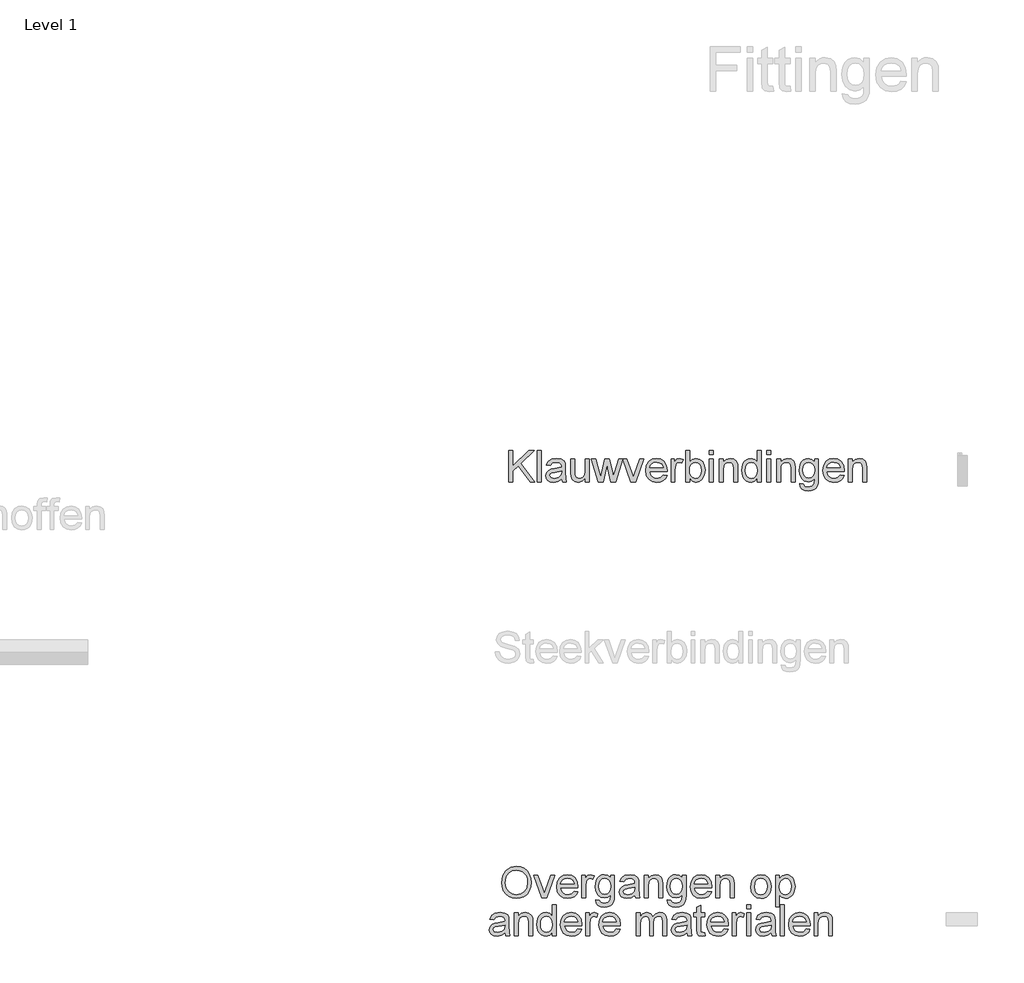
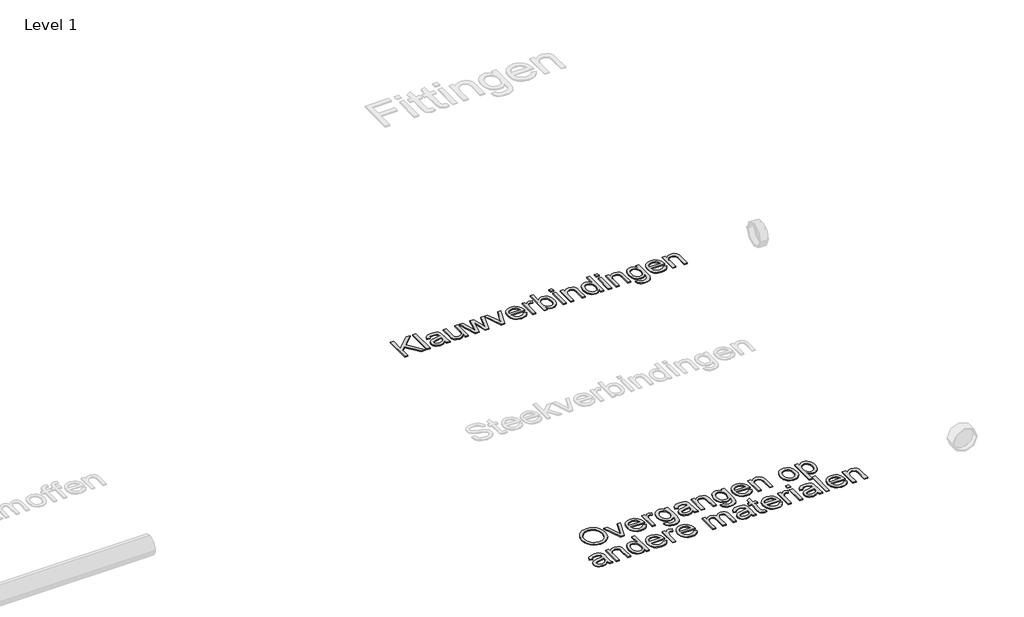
# One storey, part 4 of 6: 2 proxies.
"""IFC4 building model written with IfcOpenShell, lengths in millimetres."""

from ifc_helpers import new_model, si_unit, origin, origin_with_axes, place, context, project, spatial, polyline, outline, extrude, element, save

model = new_model("IFC4")

# Units and contexts
model_context = context("Model", 3, world=origin())
ifc_project = project(units=[si_unit("LENGTHUNIT", "METRE", prefix="MILLI")], contexts=[model_context])

# Site, building, storey
site = spatial("IfcSite", under=ifc_project)
building = spatial("IfcBuilding", under=site)
storey = spatial("IfcBuildingStorey", under=building, Name="Level 1", Elevation=0.0)

# Proxies
placement = place(None, origin())
element("IfcBuildingElementProxy", 1, Name="small", ObjectType="small", at=placement, inside=storey, context=model_context, shape_type="SweptSolid", body=[
    extrude(outline(polyline([(1704.9338092, 15785.1742315), (1704.9338092, 15925.8130657), (1722.5136635, 15925.8130657), (1722.5136635, 15856.9700817), (1794.6185346, 15925.8130657), (1819.202862, 15925.8130657), (1758.669106, 15867.9918263), (1821.4003438, 15785.1742315), (1799.9062251, 15785.1742315), (1746.205264, 15856.1116904), (1722.5136635, 15833.5188308), (1722.5136635, 15785.1742315), (1704.9338092, 15785.1742315)])), origin_with_axes(), (0.0, 0.0, 1.0), 5.0),
    extrude(outline(polyline([(1832.3877527, 15785.1742315), (1832.3877527, 15925.8130657), (1849.967607, 15925.8130657), (1849.967607, 15785.1742315), (1832.3877527, 15785.1742315)])), origin_with_axes(), (0.0, 0.0, 1.0), 5.0),
    extrude(outline(polyline([(1942.261842, 15798.3591222), (1925.2141903, 15786.4446507), (1906.3810847, 15782.9767497), (1891.6897172, 15785.0626406), (1880.8525268, 15791.3203134), (1874.1699503, 15800.8227053), (1871.9424249, 15812.6427538), (1875.3073188, 15826.5486932), (1884.1487495, 15836.6433752), (1896.458081, 15842.4117649), (1911.6687753, 15845.0556101), (1942.158835, 15851.098685), (1942.261842, 15855.0129495), (1941.0515102, 15862.8586462), (1937.4205149, 15867.9918263), (1929.300133, 15871.8030837), (1917.9865354, 15873.0735029), (1900.2006672, 15869.6914411), (1891.7197609, 15857.6911304), (1874.1399066, 15859.8886122), (1881.7452538, 15877.0564386), (1897.0589549, 15887.1167849), (1920.2526885, 15890.6533572), (1941.5579611, 15887.5288127), (1953.5926074, 15879.6831161), (1958.9833049, 15867.7514767), (1959.8416962, 15852.3691042), (1959.8416962, 15830.4972933), (1960.7344232, 15799.9557301), (1964.2366598, 15785.1742315), (1946.6568055, 15785.1742315), (1942.261842, 15798.3591222)]), holes=[polyline([(1942.261842, 15833.5188308), (1913.9005927, 15828.1281333), (1898.7757376, 15825.2782741), (1891.9257748, 15820.6429609), (1889.5222791, 15813.8788373), (1894.7584662, 15804.3678615), (1910.1236709, 15800.556604), (1927.9095391, 15804.7627215), (1939.3776471, 15814.9432426), (1942.158835, 15828.5401611), (1942.261842, 15833.5188308)])]), origin_with_axes(), (0.0, 0.0, 1.0), 5.0),
    extrude(outline(polyline([(2049.9384494, 15785.1742315), (2049.9384494, 15802.925764), (2036.1698526, 15787.9640033), (2018.2123061, 15782.9767497), (2001.6796893, 15786.4789863), (1990.2802525, 15795.2689134), (1985.0440655, 15808.2134546), (1984.0139959, 15824.5572254), (1984.0139959, 15888.4558754), (2001.5938502, 15888.4558754), (2001.5938502, 15832.8321177), (2002.6582554, 15814.9089069), (2009.6112251, 15804.3850293), (2022.7102767, 15800.556604), (2037.3887683, 15804.4708684), (2047.0885902, 15815.1320886), (2049.9384494, 15834.7205786), (2049.9384494, 15888.4558754), (2067.5183037, 15888.4558754), (2067.5183037, 15785.1742315), (2049.9384494, 15785.1742315)])), origin_with_axes(), (0.0, 0.0, 1.0), 5.0),
    extrude(outline(polyline([(2108.8240941, 15785.1742315), (2077.4069717, 15888.4558754), (2095.6735391, 15888.4558754), (2113.4937429, 15828.1968046), (2118.8157691, 15806.6683502), (2123.176397, 15827.4070845), (2137.3570217, 15888.4558754), (2158.3017699, 15888.4558754), (2172.4137232, 15827.5787628), (2176.293652, 15808.7971607), (2181.8560278, 15828.6088324), (2199.7105673, 15888.4558754), (2218.0458059, 15888.4558754), (2186.388334, 15785.1742315), (2165.1345648, 15785.1742315), (2151.6406533, 15845.7423232), (2147.7263888, 15864.6269323), (2130.3182128, 15785.1742315), (2108.8240941, 15785.1742315)])), origin_with_axes(), (0.0, 0.0, 1.0), 5.0),
    extrude(outline(polyline([(2255.4716676, 15785.1742315), (2219.1445468, 15888.4558754), (2237.7544707, 15888.4558754), (2259.7636242, 15826.5830289), (2266.3904052, 15805.7756232), (2272.8798436, 15825.4156167), (2295.0263397, 15888.4558754), (2313.6362636, 15888.4558754), (2277.7555063, 15785.1742315), (2255.4716676, 15785.1742315)])), origin_with_axes(), (0.0, 0.0, 1.0), 5.0),
    extrude(outline(polyline([(2401.329521, 15815.9389765), (2418.5660188, 15813.7414947), (2412.3555576, 15800.754034), (2402.4454297, 15791.0456281), (2389.0588171, 15784.9939693), (2372.4189013, 15782.9767497), (2351.7917578, 15786.4575265), (2335.9201023, 15796.899857), (2325.7996686, 15813.6256119), (2322.4261907, 15835.9566621), (2325.8340042, 15859.0388048), (2336.0574449, 15876.3010543), (2351.7145026, 15887.0652814), (2371.4231674, 15890.6533572), (2390.5180823, 15887.0738653), (2405.7759881, 15876.3353899), (2415.7805389, 15859.1074761), (2419.1153892, 15836.0596691), (2419.0123823, 15831.321349), (2340.006045, 15831.321349), (2343.0490422, 15818.16221), (2350.1178947, 15808.4881398), (2360.3198756, 15802.5394879), (2372.7622578, 15800.556604), (2389.9987556, 15804.2305189), (2401.329521, 15815.9389765)]), holes=[polyline([(2340.006045, 15848.9012033), (2401.5355349, 15848.9012033), (2394.4967261, 15864.8329462), (2384.2475337, 15871.0133637), (2371.3544961, 15873.0735029), (2359.5044038, 15871.4296835), (2349.7058669, 15866.4982254), (2342.8945318, 15858.8113311), (2340.006045, 15848.9012033)])]), origin_with_axes(), (0.0, 0.0, 1.0), 5.0),
    extrude(outline(polyline([(2436.6952435, 15785.1742315), (2436.6952435, 15888.4558754), (2452.077616, 15888.4558754), (2452.077616, 15873.1765098), (2462.9963536, 15887.2541275), (2473.9837625, 15890.6533572), (2491.6322881, 15885.228324), (2485.7608915, 15869.4682593), (2473.4000564, 15873.0735029), (2463.4598849, 15869.6056019), (2457.124957, 15859.9916191), (2454.2750978, 15839.4588987), (2454.2750978, 15785.1742315), (2436.6952435, 15785.1742315)])), origin_with_axes(), (0.0, 0.0, 1.0), 5.0),
    extrude(outline(polyline([(2520.1995513, 15785.1742315), (2502.619697, 15785.1742315), (2502.619697, 15925.8130657), (2520.1995513, 15925.8130657), (2520.1995513, 15873.657209), (2532.5088829, 15886.4043201), (2547.8054162, 15890.6533572), (2565.4196061, 15886.8249319), (2579.085196, 15876.0607047), (2587.4802631, 15859.3220739), (2590.5189684, 15838.3601578), (2587.3729642, 15814.8917391), (2577.9349516, 15797.4320596), (2564.0848076, 15786.5905772), (2547.7024093, 15782.9767497), (2532.0711033, 15787.6378146), (2520.1995513, 15801.6210092), (2520.1995513, 15785.1742315)]), holes=[polyline([(2520.1995513, 15837.5361021), (2521.4012992, 15822.8747784), (2525.0065427, 15812.9517747), (2534.2170816, 15803.6553967), (2546.1916405, 15800.556604), (2556.337826, 15802.8399249), (2565.0075783, 15809.6898877), (2570.9562302, 15821.0635727), (2572.9391141, 15836.9180604), (2571.0377773, 15853.0043138), (2565.333767, 15864.2492401), (2556.9344079, 15870.8674372), (2546.9470249, 15873.0735029), (2536.8008395, 15870.790182), (2528.1310871, 15863.9402192), (2522.1824353, 15852.7725481), (2520.1995513, 15837.5361021)])]), origin_with_axes(), (0.0, 0.0, 1.0), 5.0),
    extrude(outline(polyline([(2610.2963045, 15908.2332114), (2610.2963045, 15925.8130657), (2627.8761587, 15925.8130657), (2627.8761587, 15908.2332114), (2610.2963045, 15908.2332114)])), origin_with_axes(), (0.0, 0.0, 1.0), 5.0),
    extrude(outline(polyline([(2610.2963045, 15785.1742315), (2610.2963045, 15888.4558754), (2627.8761587, 15888.4558754), (2627.8761587, 15785.1742315), (2610.2963045, 15785.1742315)])), origin_with_axes(), (0.0, 0.0, 1.0), 5.0),
    extrude(outline(polyline([(2654.2459402, 15785.1742315), (2654.2459402, 15888.4558754), (2671.8257944, 15888.4558754), (2671.8257944, 15874.0349012), (2685.2682025, 15886.4987432), (2703.620609, 15890.6533572), (2720.2218972, 15887.305631), (2731.5526626, 15878.5157039), (2736.8231853, 15865.5883306), (2737.750248, 15848.5921824), (2737.750248, 15785.1742315), (2720.1703937, 15785.1742315), (2720.1703937, 15846.2230223), (2718.1445902, 15861.7770731), (2710.9856065, 15870.0004619), (2698.9166246, 15873.0735029), (2688.6202206, 15871.3481363), (2679.8431694, 15866.1720367), (2673.8301382, 15856.1717778), (2671.8257944, 15839.9739335), (2671.8257944, 15785.1742315), (2654.2459402, 15785.1742315)])), origin_with_axes(), (0.0, 0.0, 1.0), 5.0),
    extrude(outline(polyline([(2825.6495193, 15785.1742315), (2825.6495193, 15801.7583518), (2814.0183169, 15787.6721502), (2797.9406475, 15782.9767497), (2786.5755464, 15784.6763645), (2776.1718435, 15789.775209), (2767.3647486, 15797.9170507), (2760.7894711, 15808.7456572), (2755.3301022, 15836.7120465), (2760.3602754, 15864.6956036), (2766.6436999, 15875.7946034), (2775.433627, 15883.9579048), (2786.0648035, 15888.9794941), (2797.8719762, 15890.6533572), (2814.0784043, 15885.8635336), (2825.6495193, 15873.4168594), (2825.6495193, 15925.8130657), (2843.2293736, 15925.8130657), (2843.2293736, 15785.1742315), (2825.6495193, 15785.1742315)]), holes=[polyline([(2772.9099565, 15836.7807178), (2774.8928405, 15820.8790185), (2780.8414923, 15809.5697129), (2789.4854929, 15802.8098812), (2799.5544232, 15800.556604), (2809.6190614, 15802.7068743), (2818.0441722, 15809.157685), (2823.7481826, 15820.0292111), (2825.6495193, 15835.4416273), (2823.7138469, 15852.291849), (2817.9068296, 15863.9745549), (2809.267121, 15870.7987659), (2798.8333744, 15873.0735029), (2788.6614373, 15870.888897), (2780.3264575, 15864.3350792), (2774.7640818, 15853.077277), (2772.9099565, 15836.7807178)])]), origin_with_axes(), (0.0, 0.0, 1.0), 5.0),
    extrude(outline(polyline([(2869.599155, 15908.2332114), (2869.599155, 15925.8130657), (2887.1790093, 15925.8130657), (2887.1790093, 15908.2332114), (2869.599155, 15908.2332114)])), origin_with_axes(), (0.0, 0.0, 1.0), 5.0),
    extrude(outline(polyline([(2869.599155, 15785.1742315), (2869.599155, 15888.4558754), (2887.1790093, 15888.4558754), (2887.1790093, 15785.1742315), (2869.599155, 15785.1742315)])), origin_with_axes(), (0.0, 0.0, 1.0), 5.0),
    extrude(outline(polyline([(2913.5487907, 15785.1742315), (2913.5487907, 15888.4558754), (2931.128645, 15888.4558754), (2931.128645, 15874.0349012), (2944.5710531, 15886.4987432), (2962.9234596, 15890.6533572), (2979.5247477, 15887.305631), (2990.8555132, 15878.5157039), (2996.1260359, 15865.5883306), (2997.0530985, 15848.5921824), (2997.0530985, 15785.1742315), (2979.4732443, 15785.1742315), (2979.4732443, 15846.2230223), (2977.4474407, 15861.7770731), (2970.2884571, 15870.0004619), (2958.2194751, 15873.0735029), (2947.9230712, 15871.3481363), (2939.14602, 15866.1720367), (2933.1329887, 15856.1717778), (2931.128645, 15839.9739335), (2931.128645, 15785.1742315), (2913.5487907, 15785.1742315)])), origin_with_axes(), (0.0, 0.0, 1.0), 5.0),
    extrude(outline(polyline([(3016.8304346, 15776.3843044), (3034.4102889, 15774.1868226), (3040.1100073, 15764.9161963), (3057.1748267, 15761.0019319), (3075.1667089, 15765.4312311), (3083.7506221, 15777.8607374), (3084.9523699, 15798.3591222), (3072.5743671, 15788.4704542), (3057.4838476, 15785.1742315), (3039.3589148, 15789.0112407), (3025.8435435, 15800.5222683), (3017.4356005, 15817.3982417), (3014.6329528, 15837.3300882), (3019.663126, 15864.5754288), (3025.8177917, 15875.635801), (3034.2214428, 15883.8548979), (3044.586518, 15888.9537423), (3056.6254563, 15890.6533572), (3072.3082657, 15886.807764), (3084.9523699, 15875.2709847), (3084.9523699, 15888.4558754), (3102.5322242, 15888.4558754), (3102.5322242, 15799.2861848), (3101.3304763, 15778.697669), (3097.7252328, 15765.139378), (3091.5147716, 15756.1477289), (3082.4973707, 15749.2591386), (3070.8704603, 15744.8813428), (3056.8314702, 15743.4220776), (3040.4748236, 15745.4779248), (3027.5946618, 15751.6454665), (3019.3326453, 15761.9418704), (3016.8304346, 15776.3843044)]), holes=[polyline([(3032.2128071, 15838.5318361), (3034.0883921, 15822.4069551), (3039.7151472, 15811.3208312), (3048.1745937, 15804.8957721), (3058.5482529, 15802.7540858), (3068.8446568, 15804.8828963), (3077.3470228, 15811.2693277), (3083.0510331, 15822.213817), (3084.9523699, 15838.0168013), (3082.9952377, 15853.2575392), (3077.1238411, 15864.2320723), (3068.4970083, 15870.8631452), (3058.2735676, 15873.0735029), (3048.2346811, 15870.8974809), (3039.8181542, 15864.3694149), (3034.1141439, 15853.5579762), (3032.2128071, 15838.5318361)])]), origin_with_axes(), (0.0, 0.0, 1.0), 5.0),
    extrude(outline(polyline([(3201.2128906, 15815.9389765), (3218.4493883, 15813.7414947), (3212.2389271, 15800.754034), (3202.3287993, 15791.0456281), (3188.9421866, 15784.9939693), (3172.3022709, 15782.9767497), (3151.6751274, 15786.4575265), (3135.8034718, 15796.899857), (3125.6830382, 15813.6256119), (3122.3095603, 15835.9566621), (3125.7173738, 15859.0388048), (3135.9408145, 15876.3010543), (3151.5978722, 15887.0652814), (3171.3065369, 15890.6533572), (3190.4014519, 15887.0738653), (3205.6593576, 15876.3353899), (3215.6639085, 15859.1074761), (3218.9987588, 15836.0596691), (3218.8957518, 15831.321349), (3139.8894145, 15831.321349), (3142.9324118, 15818.16221), (3150.0012643, 15808.4881398), (3160.2032452, 15802.5394879), (3172.6456274, 15800.556604), (3189.8821251, 15804.2305189), (3201.2128906, 15815.9389765)]), holes=[polyline([(3139.8894145, 15848.9012033), (3201.4189045, 15848.9012033), (3194.3800957, 15864.8329462), (3184.1309033, 15871.0133637), (3171.2378656, 15873.0735029), (3159.3877734, 15871.4296835), (3149.5892365, 15866.4982254), (3142.7779013, 15858.8113311), (3139.8894145, 15848.9012033)])]), origin_with_axes(), (0.0, 0.0, 1.0), 5.0),
    extrude(outline(polyline([(3236.5786131, 15785.1742315), (3236.5786131, 15888.4558754), (3254.1584673, 15888.4558754), (3254.1584673, 15874.0349012), (3267.6008754, 15886.4987432), (3285.9532819, 15890.6533572), (3302.5545701, 15887.305631), (3313.8853355, 15878.5157039), (3319.1558582, 15865.5883306), (3320.0829209, 15848.5921824), (3320.0829209, 15785.1742315), (3302.5030666, 15785.1742315), (3302.5030666, 15846.2230223), (3300.4772631, 15861.7770731), (3293.3182794, 15870.0004619), (3281.2492975, 15873.0735029), (3270.9528935, 15871.3481363), (3262.1758423, 15866.1720367), (3256.1628111, 15856.1717778), (3254.1584673, 15839.9739335), (3254.1584673, 15785.1742315), (3236.5786131, 15785.1742315)])), origin_with_axes(), (0.0, 0.0, 1.0), 5.0),
])
element("IfcBuildingElementProxy", 2, Name="small", ObjectType="small", at=placement, inside=storey, context=model_context, shape_type="SweptSolid", body=[
    extrude(outline(polyline([(1671.5177928, 13973.1453633), (1676.2046095, 14004.2448809), (1690.2650593, 14027.773387), (1711.7334263, 14042.5806373), (1738.6439942, 14047.5163874), (1757.0908237, 14045.1987308), (1773.6320245, 14038.2457611), (1787.3662857, 14027.1467613), (1797.3922963, 14012.3910145), (1803.5212104, 13994.6909854), (1805.5641817, 13974.7591389), (1803.4139114, 13954.5611911), (1796.9631007, 13936.6122286), (1786.5679817, 13921.83073), (1772.5847871, 13911.1351742), (1756.1852209, 13904.6457358), (1738.5409873, 13902.4825896), (1719.8108886, 13904.8732095), (1703.1752648, 13912.045069), (1689.4753393, 13923.3500827), (1679.5523356, 13938.1401651), (1673.5264285, 13955.1577731), (1671.5177928, 13973.1453633)]), holes=[polyline([(1689.0976471, 13972.973685), (1692.6127596, 13950.9731154), (1703.158097, 13934.2087329), (1719.0082927, 13923.5990162), (1738.4379803, 13920.0624439), (1758.150937, 13923.6333518), (1774.0268845, 13934.3460755), (1784.4949667, 13951.6254928), (1787.9843274, 13974.8964816), (1786.4907265, 13990.4591162), (1782.0099238, 14003.9101082), (1774.6578021, 14014.910393), (1764.5502443, 14023.120906), (1752.3567956, 14028.2326264), (1738.7470012, 14029.9365331), (1719.8366404, 14026.6531863), (1703.7589709, 14016.8031459), (1692.7629781, 13999.2790871), (1689.0976471, 13972.973685)])]), origin_with_axes(), (0.0, 0.0, 1.0), 5.0),
    extrude(outline(polyline([(1852.8787114, 13904.6800714), (1816.5515906, 14007.9617153), (1835.1615145, 14007.9617153), (1857.170668, 13946.0888688), (1863.797449, 13925.2814631), (1870.2868874, 13944.9214566), (1892.4333835, 14007.9617153), (1911.0433074, 14007.9617153), (1875.1625501, 13904.6800714), (1852.8787114, 13904.6800714)])), origin_with_axes(), (0.0, 0.0, 1.0), 5.0),
    extrude(outline(polyline([(1998.7365648, 13935.4448164), (2015.9730626, 13933.2473346), (2009.7626014, 13920.2598739), (1999.8524735, 13910.5514681), (1986.4658609, 13904.4998092), (1969.8259451, 13902.4825896), (1949.1988016, 13905.9633664), (1933.3271461, 13916.4056969), (1923.2067124, 13933.1314518), (1919.8332345, 13955.462502), (1923.241048, 13978.5446447), (1933.4644887, 13995.8068942), (1949.1215464, 14006.5711213), (1968.8302112, 14010.1591971), (1987.9251261, 14006.5797053), (2003.1830319, 13995.8412298), (2013.1875827, 13978.613316), (2016.522433, 13955.565509), (2016.4194261, 13950.8271889), (1937.4130888, 13950.8271889), (1940.456086, 13937.6680499), (1947.5249385, 13927.9939797), (1957.7269194, 13922.0453279), (1970.1693016, 13920.0624439), (1987.4057994, 13923.7363588), (1998.7365648, 13935.4448164)]), holes=[polyline([(1937.4130888, 13968.4070432), (1998.9425787, 13968.4070432), (1991.9037699, 13984.3387861), (1981.6545775, 13990.5192036), (1968.7615399, 13992.5793428), (1956.9114477, 13990.9355234), (1947.1129107, 13986.0040653), (1940.3015756, 13978.317171), (1937.4130888, 13968.4070432)])]), origin_with_axes(), (0.0, 0.0, 1.0), 5.0),
    extrude(outline(polyline([(2034.1022873, 13904.6800714), (2034.1022873, 14007.9617153), (2049.4846598, 14007.9617153), (2049.4846598, 13992.6823498), (2060.4033974, 14006.7599674), (2071.3908063, 14010.1591971), (2089.0393319, 14004.7341639), (2083.1679353, 13988.9740992), (2070.8071002, 13992.5793428), (2060.8669287, 13989.1114419), (2054.5320008, 13979.497459), (2051.6821416, 13958.9647386), (2051.6821416, 13904.6800714), (2034.1022873, 13904.6800714)])), origin_with_axes(), (0.0, 0.0, 1.0), 5.0),
    extrude(outline(polyline([(2095.6317773, 13895.8901443), (2113.2116315, 13893.6926625), (2118.9113499, 13884.4220362), (2135.9761694, 13880.5077718), (2153.9680515, 13884.937071), (2162.5519647, 13897.3665773), (2163.7537126, 13917.8649621), (2151.3757097, 13907.9762941), (2136.2851903, 13904.6800714), (2118.1602575, 13908.5170806), (2104.6448861, 13920.0281083), (2096.2369431, 13936.9040816), (2093.4342955, 13956.8359281), (2098.4644686, 13984.0812687), (2104.6191344, 13995.1416409), (2113.0227854, 14003.3607378), (2123.3878607, 14008.4595823), (2135.4267989, 14010.1591971), (2151.1096084, 14006.3136039), (2163.7537126, 13994.7768246), (2163.7537126, 14007.9617153), (2181.3335669, 14007.9617153), (2181.3335669, 13918.7920247), (2180.131819, 13898.2035089), (2176.5265755, 13884.645218), (2170.3161142, 13875.6535689), (2161.2987134, 13868.7649785), (2149.6718029, 13864.3871828), (2135.6328129, 13862.9279175), (2119.2761662, 13864.9837647), (2106.3960044, 13871.1513064), (2098.133988, 13881.4477103), (2095.6317773, 13895.8901443)]), holes=[polyline([(2111.0141497, 13958.037676), (2112.8897348, 13941.912795), (2118.5164899, 13930.8266711), (2126.9759364, 13924.401612), (2137.3495955, 13922.2599257), (2147.6459994, 13924.3887362), (2156.1483655, 13930.7751676), (2161.8523758, 13941.719657), (2163.7537126, 13957.5226412), (2161.7965804, 13972.7633791), (2155.9251837, 13983.7379122), (2147.2983509, 13990.3689851), (2137.0749103, 13992.5793428), (2127.0360238, 13990.4033208), (2118.6194969, 13983.8752548), (2112.9154865, 13973.0638161), (2111.0141497, 13958.037676)])]), origin_with_axes(), (0.0, 0.0, 1.0), 5.0),
    extrude(outline(polyline([(2273.6278018, 13917.8649621), (2256.5801501, 13905.9504906), (2237.7470445, 13902.4825896), (2223.0556771, 13904.5684805), (2212.2184866, 13910.8261533), (2205.5359102, 13920.3285452), (2203.3083847, 13932.1485937), (2206.6732787, 13946.0545331), (2215.5147093, 13956.1492151), (2227.8240409, 13961.9176048), (2243.0347351, 13964.56145), (2273.5247948, 13970.6045249), (2273.6278018, 13974.5187894), (2272.41747, 13982.3644861), (2268.7864747, 13987.4976662), (2260.6660928, 13991.3089236), (2249.3524952, 13992.5793428), (2231.566627, 13989.197281), (2223.0857208, 13977.1969703), (2205.5058665, 13979.3944521), (2213.1112136, 13996.5622785), (2228.4249148, 14006.6226248), (2251.6186483, 14010.1591971), (2272.9239209, 14007.0346527), (2284.9585673, 13999.188956), (2290.3492648, 13987.2573166), (2291.2076561, 13971.8749441), (2291.2076561, 13950.0031332), (2292.1003831, 13919.46157), (2295.6026196, 13904.6800714), (2278.0227654, 13904.6800714), (2273.6278018, 13917.8649621)]), holes=[polyline([(2273.6278018, 13953.0246707), (2245.2665525, 13947.6339732), (2230.1416974, 13944.784114), (2223.2917347, 13940.1488008), (2220.888239, 13933.3846772), (2226.124426, 13923.8737014), (2241.4896307, 13920.0624439), (2259.2754989, 13924.2685614), (2270.743607, 13934.4490825), (2273.5247948, 13948.046001), (2273.6278018, 13953.0246707)])]), origin_with_axes(), (0.0, 0.0, 1.0), 5.0),
    extrude(outline(polyline([(2315.3799557, 13904.6800714), (2315.3799557, 14007.9617153), (2332.95981, 14007.9617153), (2332.95981, 13993.5407411), (2346.4022181, 14006.0045831), (2364.7546246, 14010.1591971), (2381.3559127, 14006.8114709), (2392.6866782, 13998.0215438), (2397.9572009, 13985.0941705), (2398.8842635, 13968.0980223), (2398.8842635, 13904.6800714), (2381.3044092, 13904.6800714), (2381.3044092, 13965.7288622), (2379.2786057, 13981.282913), (2372.1196221, 13989.5063019), (2360.0506401, 13992.5793428), (2349.7542362, 13990.8539762), (2340.9771849, 13985.6778766), (2334.9641537, 13975.6776177), (2332.95981, 13959.4797734), (2332.95981, 13904.6800714), (2315.3799557, 13904.6800714)])), origin_with_axes(), (0.0, 0.0, 1.0), 5.0),
    extrude(outline(polyline([(2418.6615996, 13895.8901443), (2436.2414539, 13893.6926625), (2441.9411722, 13884.4220362), (2459.0059917, 13880.5077718), (2476.9978738, 13884.937071), (2485.5817871, 13897.3665773), (2486.7835349, 13917.8649621), (2474.405532, 13907.9762941), (2459.3150126, 13904.6800714), (2441.1900798, 13908.5170806), (2427.6747085, 13920.0281083), (2419.2667655, 13936.9040816), (2416.4641178, 13956.8359281), (2421.4942909, 13984.0812687), (2427.6489567, 13995.1416409), (2436.0526078, 14003.3607378), (2446.417683, 14008.4595823), (2458.4566213, 14010.1591971), (2474.1394307, 14006.3136039), (2486.7835349, 13994.7768246), (2486.7835349, 14007.9617153), (2504.3633892, 14007.9617153), (2504.3633892, 13918.7920247), (2503.1616413, 13898.2035089), (2499.5563978, 13884.645218), (2493.3459366, 13875.6535689), (2484.3285357, 13868.7649785), (2472.7016253, 13864.3871828), (2458.6626352, 13862.9279175), (2442.3059885, 13864.9837647), (2429.4258268, 13871.1513064), (2421.1638103, 13881.4477103), (2418.6615996, 13895.8901443)]), holes=[polyline([(2434.0439721, 13958.037676), (2435.9195571, 13941.912795), (2441.5463122, 13930.8266711), (2450.0057587, 13924.401612), (2460.3794178, 13922.2599257), (2470.6758217, 13924.3887362), (2479.1781878, 13930.7751676), (2484.8821981, 13941.719657), (2486.7835349, 13957.5226412), (2484.8264027, 13972.7633791), (2478.955006, 13983.7379122), (2470.3281733, 13990.3689851), (2460.1047326, 13992.5793428), (2450.0658461, 13990.4033208), (2441.6493192, 13983.8752548), (2435.9453089, 13973.0638161), (2434.0439721, 13958.037676)])]), origin_with_axes(), (0.0, 0.0, 1.0), 5.0),
    extrude(outline(polyline([(2603.0440556, 13935.4448164), (2620.2805533, 13933.2473346), (2614.0700921, 13920.2598739), (2604.1599643, 13910.5514681), (2590.7733516, 13904.4998092), (2574.1334358, 13902.4825896), (2553.5062924, 13905.9633664), (2537.6346368, 13916.4056969), (2527.5142031, 13933.1314518), (2524.1407252, 13955.462502), (2527.5485388, 13978.5446447), (2537.7719794, 13995.8068942), (2553.4290371, 14006.5711213), (2573.1377019, 14010.1591971), (2592.2326169, 14006.5797053), (2607.4905226, 13995.8412298), (2617.4950735, 13978.613316), (2620.8299238, 13955.565509), (2620.7269168, 13950.8271889), (2541.7205795, 13950.8271889), (2544.7635768, 13937.6680499), (2551.8324293, 13927.9939797), (2562.0344102, 13922.0453279), (2574.4767924, 13920.0624439), (2591.7132901, 13923.7363588), (2603.0440556, 13935.4448164)]), holes=[polyline([(2541.7205795, 13968.4070432), (2603.2500695, 13968.4070432), (2596.2112606, 13984.3387861), (2585.9620683, 13990.5192036), (2573.0690306, 13992.5793428), (2561.2189384, 13990.9355234), (2551.4204015, 13986.0040653), (2544.6090663, 13978.317171), (2541.7205795, 13968.4070432)])]), origin_with_axes(), (0.0, 0.0, 1.0), 5.0),
    extrude(outline(polyline([(2638.409778, 13904.6800714), (2638.409778, 14007.9617153), (2655.9896323, 14007.9617153), (2655.9896323, 13993.5407411), (2669.4320404, 14006.0045831), (2687.7844469, 14010.1591971), (2704.3857351, 14006.8114709), (2715.7165005, 13998.0215438), (2720.9870232, 13985.0941705), (2721.9140858, 13968.0980223), (2721.9140858, 13904.6800714), (2704.3342316, 13904.6800714), (2704.3342316, 13965.7288622), (2702.3084281, 13981.282913), (2695.1494444, 13989.5063019), (2683.0804624, 13992.5793428), (2672.7840585, 13990.8539762), (2664.0070073, 13985.6778766), (2657.993976, 13975.6776177), (2655.9896323, 13959.4797734), (2655.9896323, 13904.6800714), (2638.409778, 13904.6800714)])), origin_with_axes(), (0.0, 0.0, 1.0), 5.0),
    extrude(outline(polyline([(2796.6284665, 13956.3208933), (2800.4311401, 13981.2228256), (2811.8391607, 13998.7254247), (2825.9339463, 14007.300754), (2842.8099196, 14010.1591971), (2861.2782089, 14006.6784203), (2876.0296638, 13996.2360898), (2885.6994421, 13979.6562614), (2888.9227015, 13957.7629908), (2887.4977719, 13940.0028743), (2883.2229831, 13926.483211), (2876.2228019, 13916.3584853), (2866.6216949, 13908.7831819), (2855.2179662, 13904.0577377), (2842.8099196, 13902.4825896), (2824.1184486, 13905.9504906), (2809.3841616, 13916.3541934), (2799.8173903, 13933.2816703), (2796.6284665, 13956.3208933)]), holes=[polyline([(2814.2083208, 13956.355229), (2816.2427082, 13940.4449458), (2822.3458705, 13929.1098884), (2831.5306577, 13922.324305), (2842.8099196, 13920.0624439), (2854.0376781, 13922.3371809), (2863.2052975, 13929.1613919), (2869.3084598, 13940.6466678), (2871.3428472, 13956.9045994), (2869.2955839, 13972.3513513), (2863.153794, 13983.5318983), (2853.9732988, 13990.3174817), (2842.8099196, 13992.5793428), (2831.5306577, 13990.3260656), (2822.3458705, 13983.5662339), (2816.2427082, 13972.2569282), (2814.2083208, 13956.355229)])]), origin_with_axes(), (0.0, 0.0, 1.0), 5.0),
    extrude(outline(polyline([(2908.7000375, 13865.1253993), (2908.7000375, 14007.9617153), (2926.2798918, 14007.9617153), (2926.2798918, 13990.7252175), (2938.4347129, 14005.3007022), (2954.847155, 14010.1591971), (2966.7358748, 14008.4595823), (2977.1309937, 14003.3607378), (2985.5947322, 13995.1716846), (2991.6893105, 13984.2014435), (2996.5993089, 13957.1106134), (2991.054101, 13928.6291893), (2984.2556417, 13917.4529343), (2974.9506798, 13909.2295454), (2964.1134893, 13904.1693286), (2952.7183445, 13902.4825896), (2937.4218112, 13906.997728), (2926.2798918, 13918.4143326), (2926.2798918, 13865.1253993), (2908.7000375, 13865.1253993)]), holes=[polyline([(2926.2798918, 13955.4968377), (2928.1812286, 13939.736773), (2933.8852389, 13928.7150284), (2942.3017658, 13922.22559), (2952.3406523, 13920.0624439), (2962.5426332, 13922.3028453), (2971.173758, 13929.0240493), (2977.0580305, 13940.4492378), (2979.0194546, 13956.8015925), (2977.105242, 13972.475818), (2971.362604, 13983.652073), (2962.958953, 13990.3475254), (2953.0617011, 13992.5793428), (2943.1258215, 13990.2058908), (2934.4002737, 13983.0855348), (2928.3099873, 13971.4414565), (2926.2798918, 13955.4968377)])]), origin_with_axes(), (0.0, 0.0, 1.0), 5.0),
    extrude(outline(polyline([(1686.9001653, 13747.1002171), (1669.8525137, 13735.1857456), (1651.0194081, 13731.7178446), (1636.3280406, 13733.8037356), (1625.4908502, 13740.0614083), (1618.8082737, 13749.5638002), (1616.5807482, 13761.3838487), (1619.9456422, 13775.2897882), (1628.7870728, 13785.3844701), (1641.0964044, 13791.1528598), (1656.3070986, 13793.7967051), (1686.7971584, 13799.83978), (1686.9001653, 13803.7540444), (1685.6898336, 13811.5997411), (1682.0588383, 13816.7329212), (1673.9384564, 13820.5441787), (1662.6248587, 13821.8145978), (1644.8389906, 13818.432536), (1636.3580843, 13806.4322253), (1618.77823, 13808.6297071), (1626.3835771, 13825.7975335), (1641.6972783, 13835.8578798), (1664.8910118, 13839.3944521), (1686.1962845, 13836.2699077), (1698.2309308, 13828.424211), (1703.6216283, 13816.4925716), (1704.4800196, 13801.1101991), (1704.4800196, 13779.2383882), (1705.3727466, 13748.696825), (1708.8749832, 13733.9153264), (1691.2951289, 13733.9153264), (1686.9001653, 13747.1002171)]), holes=[polyline([(1686.9001653, 13782.2599257), (1658.5389161, 13776.8692282), (1643.414061, 13774.019369), (1636.5640982, 13769.3840559), (1634.1606025, 13762.6199322), (1639.3967896, 13753.1089564), (1654.7619942, 13749.2976989), (1672.5478624, 13753.5038164), (1684.0159705, 13763.6843375), (1686.7971584, 13777.281256), (1686.9001653, 13782.2599257)])]), origin_with_axes(), (0.0, 0.0, 1.0), 5.0),
    extrude(outline(polyline([(1728.6523192, 13733.9153264), (1728.6523192, 13837.1969703), (1746.2321735, 13837.1969703), (1746.2321735, 13822.7759961), (1759.6745816, 13835.2398381), (1778.0269881, 13839.3944521), (1794.6282763, 13836.0467259), (1805.9590417, 13827.2567988), (1811.2295644, 13814.3294255), (1812.1566271, 13797.3332773), (1812.1566271, 13733.9153264), (1794.5767728, 13733.9153264), (1794.5767728, 13794.9641173), (1792.5509693, 13810.518168), (1785.3919856, 13818.7415569), (1773.3230036, 13821.8145978), (1763.0265997, 13820.0892313), (1754.2495485, 13814.9131316), (1748.2365173, 13804.9128727), (1746.2321735, 13788.7150284), (1746.2321735, 13733.9153264), (1728.6523192, 13733.9153264)])), origin_with_axes(), (0.0, 0.0, 1.0), 5.0),
    extrude(outline(polyline([(1900.0558984, 13733.9153264), (1900.0558984, 13750.4994468), (1888.424696, 13736.4132452), (1872.3470266, 13731.7178446), (1860.9819255, 13733.4174595), (1850.5782226, 13738.5163039), (1841.7711277, 13746.6581456), (1835.1958501, 13757.4867521), (1829.7364813, 13785.4531414), (1834.7666545, 13813.4366985), (1841.050079, 13824.5356983), (1849.8400061, 13832.6989998), (1860.4711826, 13837.720589), (1872.2783553, 13839.3944521), (1888.4847834, 13834.6046285), (1900.0558984, 13822.1579543), (1900.0558984, 13874.5541606), (1917.6357527, 13874.5541606), (1917.6357527, 13733.9153264), (1900.0558984, 13733.9153264)]), holes=[polyline([(1847.3163356, 13785.5218127), (1849.2992196, 13769.6201135), (1855.2478714, 13758.3108078), (1863.891872, 13751.5509761), (1873.9608022, 13749.2976989), (1884.0254405, 13751.4479692), (1892.4505513, 13757.89878), (1898.1545617, 13768.7703061), (1900.0558984, 13784.1827223), (1898.120226, 13801.0329439), (1892.3132087, 13812.7156498), (1883.6735001, 13819.5398608), (1873.2397535, 13821.8145978), (1863.0678164, 13819.6299919), (1854.7328366, 13813.0761742), (1849.1704609, 13801.818372), (1847.3163356, 13785.5218127)])]), origin_with_axes(), (0.0, 0.0, 1.0), 5.0),
    extrude(outline(polyline([(2016.3164191, 13764.6800714), (2033.5529168, 13762.4825896), (2027.3424556, 13749.4951289), (2017.4323278, 13739.7867231), (2004.0457151, 13733.7350643), (1987.4057994, 13731.7178446), (1966.7786559, 13735.1986215), (1950.9070004, 13745.6409519), (1940.7865667, 13762.3667068), (1937.4130888, 13784.697757), (1940.8209023, 13807.7798997), (1951.044343, 13825.0421492), (1966.7014007, 13835.8063764), (1986.4100654, 13839.3944521), (2005.5049804, 13835.8149603), (2020.7628861, 13825.0764848), (2030.767437, 13807.848571), (2034.1022873, 13784.800764), (2033.9992803, 13780.0624439), (1954.992943, 13780.0624439), (1958.0359403, 13766.9033049), (1965.1047928, 13757.2292347), (1975.3067737, 13751.2805829), (1987.7491559, 13749.2976989), (2004.9856536, 13752.9716138), (2016.3164191, 13764.6800714)]), holes=[polyline([(1954.992943, 13797.6422982), (2016.522433, 13797.6422982), (2009.4836242, 13813.5740411), (1999.2344318, 13819.7544586), (1986.3413941, 13821.8145978), (1974.4913019, 13820.1707784), (1964.692765, 13815.2393203), (1957.8814298, 13807.552426), (1954.992943, 13797.6422982)])]), origin_with_axes(), (0.0, 0.0, 1.0), 5.0),
    extrude(outline(polyline([(2051.6821416, 13733.9153264), (2051.6821416, 13837.1969703), (2067.0645141, 13837.1969703), (2067.0645141, 13821.9176048), (2077.9832517, 13835.9952225), (2088.9706606, 13839.3944521), (2106.6191862, 13833.9694189), (2100.7477895, 13818.2093543), (2088.3869545, 13821.8145978), (2078.446783, 13818.3466969), (2072.111855, 13808.7327141), (2069.2619958, 13788.1999936), (2069.2619958, 13733.9153264), (2051.6821416, 13733.9153264)])), origin_with_axes(), (0.0, 0.0, 1.0), 5.0),
    extrude(outline(polyline([(2189.9174801, 13764.6800714), (2207.1539778, 13762.4825896), (2200.9435166, 13749.4951289), (2191.0333888, 13739.7867231), (2177.6467761, 13733.7350643), (2161.0068603, 13731.7178446), (2140.3797169, 13735.1986215), (2124.5080613, 13745.6409519), (2114.3876276, 13762.3667068), (2111.0141497, 13784.697757), (2114.4219633, 13807.7798997), (2124.6454039, 13825.0421492), (2140.3024617, 13835.8063764), (2160.0111264, 13839.3944521), (2179.1060414, 13835.8149603), (2194.3639471, 13825.0764848), (2204.368498, 13807.848571), (2207.7033483, 13784.800764), (2207.6003413, 13780.0624439), (2128.594004, 13780.0624439), (2131.6370013, 13766.9033049), (2138.7058538, 13757.2292347), (2148.9078347, 13751.2805829), (2161.3502169, 13749.2976989), (2178.5867146, 13752.9716138), (2189.9174801, 13764.6800714)]), holes=[polyline([(2128.594004, 13797.6422982), (2190.123494, 13797.6422982), (2183.0846852, 13813.5740411), (2172.8354928, 13819.7544586), (2159.9424551, 13821.8145978), (2148.0923629, 13820.1707784), (2138.293826, 13815.2393203), (2131.4824908, 13807.552426), (2128.594004, 13797.6422982)])]), origin_with_axes(), (0.0, 0.0, 1.0), 5.0),
    extrude(outline(polyline([(2280.2202472, 13733.9153264), (2280.2202472, 13837.1969703), (2297.8001014, 13837.1969703), (2297.8001014, 13820.2008221), (2309.8862512, 13834.1239294), (2327.0884133, 13839.3944521), (2344.7026033, 13834.0209224), (2354.3852574, 13818.9647386), (2368.1023507, 13834.2870237), (2385.4246876, 13839.3944521), (2398.639622, 13837.2699336), (2408.4124072, 13830.896378), (2414.4511901, 13820.1021071), (2416.4641178, 13804.7154427), (2416.4641178, 13733.9153264), (2398.8842635, 13733.9153264), (2398.8842635, 13797.161599), (2397.25332, 13811.8400906), (2391.3475877, 13819.0677456), (2381.3044092, 13821.8145978), (2371.7805575, 13820.0548956), (2364.016408, 13814.775789), (2358.8531842, 13805.6167536), (2357.1321096, 13792.217265), (2357.1321096, 13733.9153264), (2339.5522553, 13733.9153264), (2339.5522553, 13799.1187313), (2335.4834805, 13816.1492151), (2330.1142428, 13820.3982521), (2322.1440793, 13821.8145978), (2309.1308669, 13818.037676), (2300.4782824, 13806.9815958), (2297.8001014, 13786.0025119), (2297.8001014, 13733.9153264), (2280.2202472, 13733.9153264)])), origin_with_axes(), (0.0, 0.0, 1.0), 5.0),
    extrude(outline(polyline([(2508.7583527, 13747.1002171), (2491.7107011, 13735.1857456), (2472.8775955, 13731.7178446), (2458.186228, 13733.8037356), (2447.3490376, 13740.0614083), (2440.6664611, 13749.5638002), (2438.4389356, 13761.3838487), (2441.8038296, 13775.2897882), (2450.6452602, 13785.3844701), (2462.9545918, 13791.1528598), (2478.165286, 13793.7967051), (2508.6553458, 13799.83978), (2508.7583527, 13803.7540444), (2507.548021, 13811.5997411), (2503.9170257, 13816.7329212), (2495.7966438, 13820.5441787), (2484.4830462, 13821.8145978), (2466.697178, 13818.432536), (2458.2162717, 13806.4322253), (2440.6364174, 13808.6297071), (2448.2417645, 13825.7975335), (2463.5554657, 13835.8578798), (2486.7491993, 13839.3944521), (2508.0544719, 13836.2699077), (2520.0891182, 13828.424211), (2525.4798157, 13816.4925716), (2526.338207, 13801.1101991), (2526.338207, 13779.2383882), (2527.230934, 13748.696825), (2530.7331706, 13733.9153264), (2513.1533163, 13733.9153264), (2508.7583527, 13747.1002171)]), holes=[polyline([(2508.7583527, 13782.2599257), (2480.3971035, 13776.8692282), (2465.2722484, 13774.019369), (2458.4222856, 13769.3840559), (2456.0187899, 13762.6199322), (2461.254977, 13753.1089564), (2476.6201816, 13749.2976989), (2494.4060498, 13753.5038164), (2505.8741579, 13763.6843375), (2508.6553458, 13777.281256), (2508.7583527, 13782.2599257)])]), origin_with_axes(), (0.0, 0.0, 1.0), 5.0),
    extrude(outline(polyline([(2587.867697, 13748.5766502), (2590.0651788, 13733.4002916), (2576.9146237, 13731.7178446), (2562.1846286, 13734.6363751), (2554.8367989, 13742.2932257), (2552.7079884, 13762.2422401), (2552.7079884, 13819.617116), (2539.5230977, 13819.617116), (2539.5230977, 13837.1969703), (2552.7079884, 13837.1969703), (2552.7079884, 13862.2963326), (2570.2878427, 13872.6313641), (2570.2878427, 13837.1969703), (2587.867697, 13837.1969703), (2587.867697, 13819.617116), (2570.2878427, 13819.617116), (2570.2878427, 13762.7572749), (2571.2149053, 13753.6926625), (2574.219275, 13750.4822789), (2580.2108464, 13749.2976989), (2587.867697, 13748.5766502)])), origin_with_axes(), (0.0, 0.0, 1.0), 5.0),
    extrude(outline(polyline([(2677.7584362, 13764.6800714), (2694.994934, 13762.4825896), (2688.7844728, 13749.4951289), (2678.874345, 13739.7867231), (2665.4877323, 13733.7350643), (2648.8478165, 13731.7178446), (2628.220673, 13735.1986215), (2612.3490175, 13745.6409519), (2602.2285838, 13762.3667068), (2598.8551059, 13784.697757), (2602.2629195, 13807.7798997), (2612.4863601, 13825.0421492), (2628.1434178, 13835.8063764), (2647.8520826, 13839.3944521), (2666.9469975, 13835.8149603), (2682.2049033, 13825.0764848), (2692.2094541, 13807.848571), (2695.5443044, 13784.800764), (2695.4412975, 13780.0624439), (2616.4349602, 13780.0624439), (2619.4779574, 13766.9033049), (2626.54681, 13757.2292347), (2636.7487908, 13751.2805829), (2649.191173, 13749.2976989), (2666.4276708, 13752.9716138), (2677.7584362, 13764.6800714)]), holes=[polyline([(2616.4349602, 13797.6422982), (2677.9644502, 13797.6422982), (2670.9256413, 13813.5740411), (2660.6764489, 13819.7544586), (2647.7834113, 13821.8145978), (2635.9333191, 13820.1707784), (2626.1347821, 13815.2393203), (2619.323447, 13807.552426), (2616.4349602, 13797.6422982)])]), origin_with_axes(), (0.0, 0.0, 1.0), 5.0),
    extrude(outline(polyline([(2713.1241587, 13733.9153264), (2713.1241587, 13837.1969703), (2728.5065312, 13837.1969703), (2728.5065312, 13821.9176048), (2739.4252688, 13835.9952225), (2750.4126777, 13839.3944521), (2768.0612033, 13833.9694189), (2762.1898067, 13818.2093543), (2749.8289716, 13821.8145978), (2739.8888001, 13818.3466969), (2733.5538722, 13808.7327141), (2730.704013, 13788.1999936), (2730.704013, 13733.9153264), (2713.1241587, 13733.9153264)])), origin_with_axes(), (0.0, 0.0, 1.0), 5.0),
    extrude(outline(polyline([(2779.0486122, 13856.9743064), (2779.0486122, 13874.5541606), (2796.6284665, 13874.5541606), (2796.6284665, 13856.9743064), (2779.0486122, 13856.9743064)])), origin_with_axes(), (0.0, 0.0, 1.0), 5.0),
    extrude(outline(polyline([(2779.0486122, 13733.9153264), (2779.0486122, 13837.1969703), (2796.6284665, 13837.1969703), (2796.6284665, 13733.9153264), (2779.0486122, 13733.9153264)])), origin_with_axes(), (0.0, 0.0, 1.0), 5.0),
    extrude(outline(polyline([(2888.9227015, 13747.1002171), (2871.8750498, 13735.1857456), (2853.0419442, 13731.7178446), (2838.3505767, 13733.8037356), (2827.5133863, 13740.0614083), (2820.8308098, 13749.5638002), (2818.6032844, 13761.3838487), (2821.9681783, 13775.2897882), (2830.809609, 13785.3844701), (2843.1189405, 13791.1528598), (2858.3296348, 13793.7967051), (2888.8196945, 13799.83978), (2888.9227015, 13803.7540444), (2887.7123697, 13811.5997411), (2884.0813744, 13816.7329212), (2875.9609925, 13820.5441787), (2864.6473949, 13821.8145978), (2846.8615267, 13818.432536), (2838.3806204, 13806.4322253), (2820.8007662, 13808.6297071), (2828.4061133, 13825.7975335), (2843.7198144, 13835.8578798), (2866.913548, 13839.3944521), (2888.2188206, 13836.2699077), (2900.2534669, 13828.424211), (2905.6441644, 13816.4925716), (2906.5025557, 13801.1101991), (2906.5025557, 13779.2383882), (2907.3952827, 13748.696825), (2910.8975193, 13733.9153264), (2893.317665, 13733.9153264), (2888.9227015, 13747.1002171)]), holes=[polyline([(2888.9227015, 13782.2599257), (2860.5614522, 13776.8692282), (2845.4365971, 13774.019369), (2838.5866343, 13769.3840559), (2836.1831386, 13762.6199322), (2841.4193257, 13753.1089564), (2856.7845304, 13749.2976989), (2874.5703986, 13753.5038164), (2886.0385066, 13763.6843375), (2888.8196945, 13777.281256), (2888.9227015, 13782.2599257)])]), origin_with_axes(), (0.0, 0.0, 1.0), 5.0),
    extrude(outline(polyline([(2930.6748554, 13733.9153264), (2930.6748554, 13874.5541606), (2948.2547097, 13874.5541606), (2948.2547097, 13733.9153264), (2930.6748554, 13733.9153264)])), origin_with_axes(), (0.0, 0.0, 1.0), 5.0),
    extrude(outline(polyline([(3046.935376, 13764.6800714), (3064.1718738, 13762.4825896), (3057.9614126, 13749.4951289), (3048.0512848, 13739.7867231), (3034.6646721, 13733.7350643), (3018.0247563, 13731.7178446), (2997.3976128, 13735.1986215), (2981.5259573, 13745.6409519), (2971.4055236, 13762.3667068), (2968.0320457, 13784.697757), (2971.4398593, 13807.7798997), (2981.6632999, 13825.0421492), (2997.3203576, 13835.8063764), (3017.0290224, 13839.3944521), (3036.1239373, 13835.8149603), (3051.3818431, 13825.0764848), (3061.3863939, 13807.848571), (3064.7212442, 13784.800764), (3064.6182373, 13780.0624439), (2985.6119, 13780.0624439), (2988.6548972, 13766.9033049), (2995.7237498, 13757.2292347), (3005.9257306, 13751.2805829), (3018.3681128, 13749.2976989), (3035.6046106, 13752.9716138), (3046.935376, 13764.6800714)]), holes=[polyline([(2985.6119, 13797.6422982), (3047.14139, 13797.6422982), (3040.1025811, 13813.5740411), (3029.8533887, 13819.7544586), (3016.9603511, 13821.8145978), (3005.1102589, 13820.1707784), (2995.3117219, 13815.2393203), (2988.5003868, 13807.552426), (2985.6119, 13797.6422982)])]), origin_with_axes(), (0.0, 0.0, 1.0), 5.0),
    extrude(outline(polyline([(3082.3010985, 13733.9153264), (3082.3010985, 13837.1969703), (3099.8809528, 13837.1969703), (3099.8809528, 13822.7759961), (3113.3233609, 13835.2398381), (3131.6757674, 13839.3944521), (3148.2770555, 13836.0467259), (3159.607821, 13827.2567988), (3164.8783437, 13814.3294255), (3165.8054063, 13797.3332773), (3165.8054063, 13733.9153264), (3148.225552, 13733.9153264), (3148.225552, 13794.9641173), (3146.1997485, 13810.518168), (3139.0407649, 13818.7415569), (3126.9717829, 13821.8145978), (3116.675379, 13820.0892313), (3107.8983277, 13814.9131316), (3101.8852965, 13804.9128727), (3099.8809528, 13788.7150284), (3099.8809528, 13733.9153264), (3082.3010985, 13733.9153264)])), origin_with_axes(), (0.0, 0.0, 1.0), 5.0),
])

save(model, "model.ifc")
